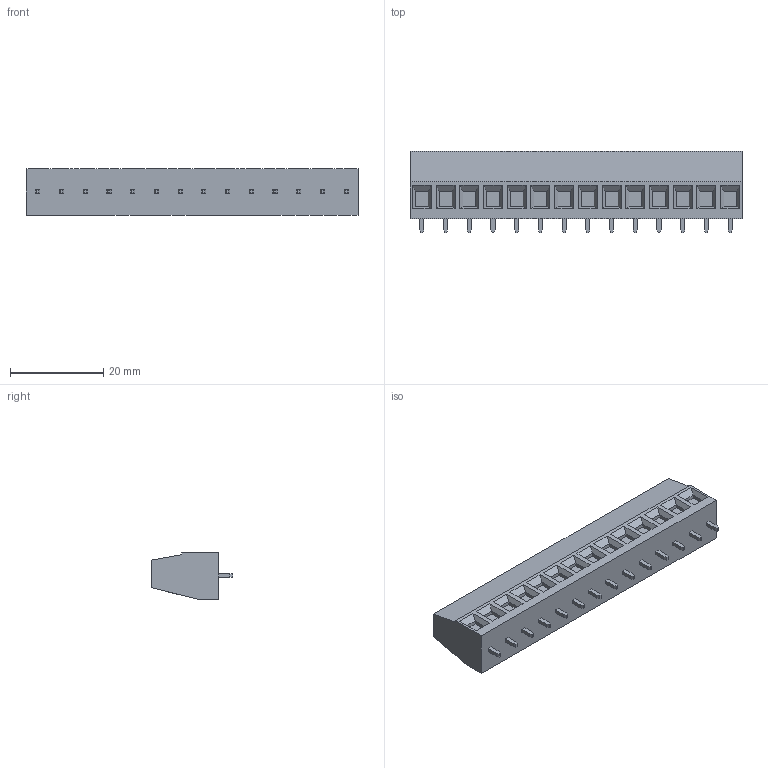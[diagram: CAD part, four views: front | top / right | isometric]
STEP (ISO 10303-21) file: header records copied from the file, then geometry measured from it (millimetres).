
FILE_DESCRIPTION((''),'2;1');
FILE_NAME('395443014','2015-02-24T',('me'),(''),'PRO/ENGINEER BY PARAMETRIC TECHNOLOGY CORPORATION, 2011490','PRO/ENGINEER BY PARAMETRIC TECHNOLOGY CORPORATION, 2011490','');
FILE_SCHEMA(('CONFIG_CONTROL_DESIGN'));
Length unit declared in the file: inch
Products named in the file (1): 395443014
Bounding box: 71.12 x 17.53 x 9.91 mm (x, y, z)
Volume: 8060.2 mm3; surface area: 5502.2 mm2
Topology: 1 solids, 1 shells, 919 faces, 2387 edges, 1554 vertices
Faces by surface type: plane 611, cylinder 140, torus 140, cone 28
Entity records: 28052 total; most frequent: CARTESIAN_POINT 5169, DIRECTION 4815, ORIENTED_EDGE 4690, EDGE_CURVE 2345, AXIS2_PLACEMENT_3D 1620, VECTOR 1575, LINE 1575, VERTEX_POINT 1498
